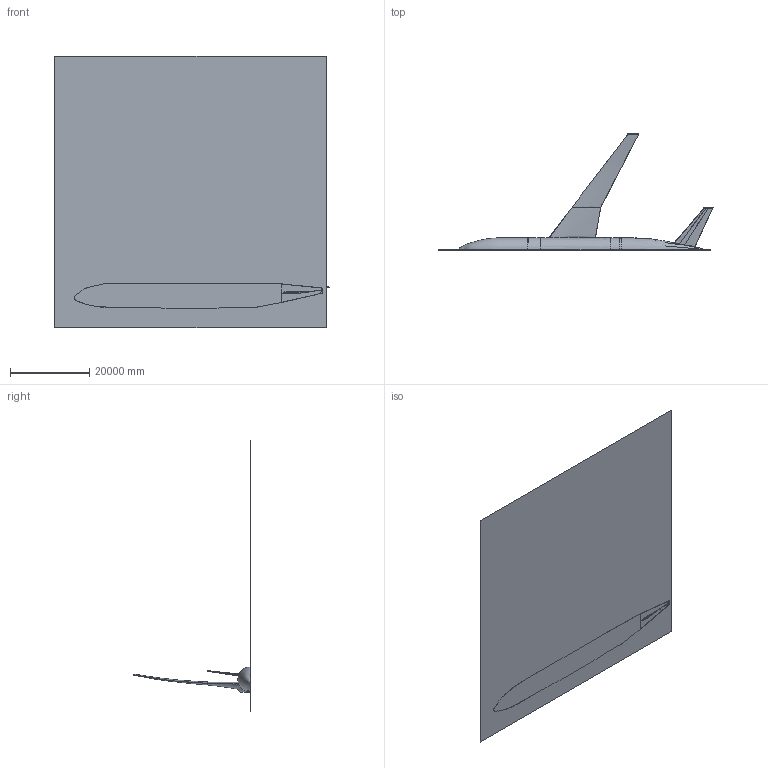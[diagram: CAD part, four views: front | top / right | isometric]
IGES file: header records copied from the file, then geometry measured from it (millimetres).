
Start section: This file was written from GridTool (For more information see ht tp://geolab.larc.nasa.gov/GridTool) or contact GridTool author: Jamshid Samareh (j.a.samareh@larc.nasa.gov)
Global section: file name: 80H/Users/przd/DPW4/DPW4_Grids/MY_Grids/DPW-wbt0/3.5Mcells/dpw-w        bt0_med-3.5Mc_5.igs; native system: Jamshid_system(j.a.samareh@larc.nasa.gov); preprocessor: V.0.0.0.0.0; author: 1.e6; organization: Jamshid_Samareh; date: 1090217.15585; units: inch
Bounding box: 69339.76 x 29459.63 x 68580 mm (x, y, z)
Surface area: 6871216205.3 mm2 (no closed solid volume)
Topology: 0 solids, 0 shells, 99 faces, 400 edges, 399 vertices
Faces by surface type: bspline 99
